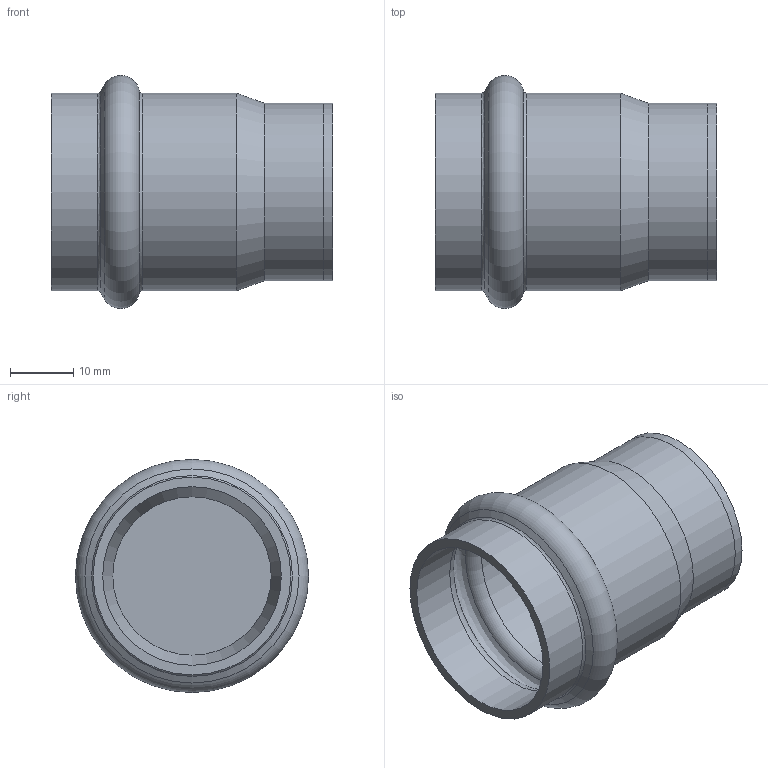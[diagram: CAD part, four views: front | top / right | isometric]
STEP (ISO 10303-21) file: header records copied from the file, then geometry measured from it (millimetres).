
FILE_DESCRIPTION((''),'2;1');
FILE_NAME('G:\Nirosan-Schmiedefeld\Technics\CAD\001 Serie 9.000\028\6930128(2).stp','2018-01-03T15:23:21',('herberg'),(''),'Autodesk Inventor 2009','Autodesk Inventor 2009','');
FILE_SCHEMA(('AUTOMOTIVE_DESIGN { 1 0 10303 214 1 1 1 1 }'));
Length unit declared in the file: millimetre
Products named in the file (3): 6930128(2); 6924328HM(1); D_6930128(0)
Assembly tree (2 placements, depth 2):
  6930128(2)
    6924328HM(1)
    D_6930128(0)
Bounding box: 44.5 x 36.8 x 36.8 mm (x, y, z)
Volume: 7306 mm3; surface area: 10137.3 mm2
Topology: 2 solids, 2 shells, 21 faces, 37 edges, 20 vertices
Faces by surface type: cylinder 7, cone 4, plane 4, bspline 3, torus 3
Full cylindrical faces by diameter (mm): 25 x1, 28 x2, 28.2 x2, 31.2 x2
Entity records: 663 total; most frequent: CARTESIAN_POINT 234, DIRECTION 86, AXIS2_PLACEMENT_3D 43, ORIENTED_EDGE 40, EDGE_LOOP 40, FACE_OUTER_BOUND 21, ADVANCED_FACE 21, VERTEX_POINT 20
